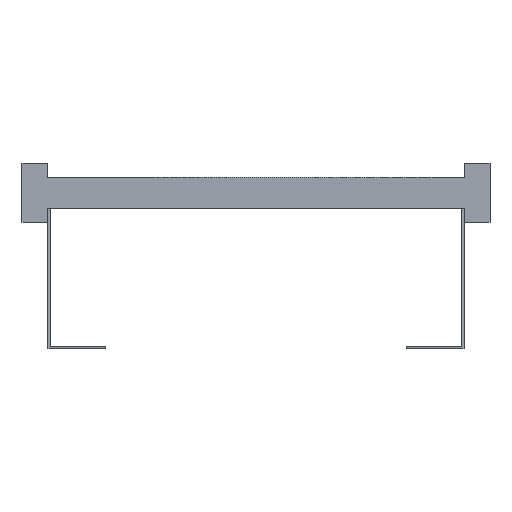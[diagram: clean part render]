
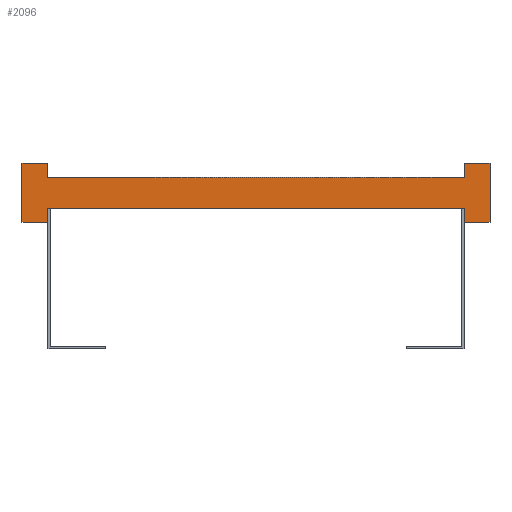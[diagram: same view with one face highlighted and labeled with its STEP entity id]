
A CAD part, front view. The second image highlights one B-rep face of the part: STEP entity #2096.
In plain terms, the highlighted planar face has unit normal (0, -1, 0).
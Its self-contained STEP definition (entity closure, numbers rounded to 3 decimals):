
#705=DIRECTION('',(0.,0.,1.));
#706=VECTOR('',#705,13.5);
#707=CARTESIAN_POINT('',(200.,0.,-28.5));
#708=LINE('',#707,#706);
#709=DIRECTION('',(0.,0.,-1.));
#710=VECTOR('',#709,13.5);
#711=CARTESIAN_POINT('',(-200.,0.,-15.));
#712=LINE('',#711,#710);
#713=DIRECTION('',(-1.,0.,0.));
#714=VECTOR('',#713,25.);
#715=CARTESIAN_POINT('',(-200.,0.,-28.5));
#716=LINE('',#715,#714);
#717=DIRECTION('',(0.,0.,1.));
#718=VECTOR('',#717,57.);
#719=CARTESIAN_POINT('',(-225.,0.,-28.5));
#720=LINE('',#719,#718);
#721=DIRECTION('',(1.,0.,0.));
#722=VECTOR('',#721,25.);
#723=CARTESIAN_POINT('',(-225.,0.,28.5));
#724=LINE('',#723,#722);
#725=DIRECTION('',(0.,0.,-1.));
#726=VECTOR('',#725,13.5);
#727=CARTESIAN_POINT('',(-200.,0.,28.5));
#728=LINE('',#727,#726);
#729=DIRECTION('',(0.,0.,1.));
#730=VECTOR('',#729,13.5);
#731=CARTESIAN_POINT('',(200.,0.,15.));
#732=LINE('',#731,#730);
#733=DIRECTION('',(1.,0.,0.));
#734=VECTOR('',#733,25.);
#735=CARTESIAN_POINT('',(200.,0.,28.5));
#736=LINE('',#735,#734);
#737=DIRECTION('',(0.,0.,-1.));
#738=VECTOR('',#737,57.);
#739=CARTESIAN_POINT('',(225.,0.,28.5));
#740=LINE('',#739,#738);
#741=DIRECTION('',(-1.,0.,0.));
#742=VECTOR('',#741,25.);
#743=CARTESIAN_POINT('',(225.,0.,-28.5));
#744=LINE('',#743,#742);
#745=DIRECTION('',(1.,0.,0.));
#746=VECTOR('',#745,400.);
#747=CARTESIAN_POINT('',(-200.,0.,-15.));
#748=LINE('',#747,#746);
#757=DIRECTION('',(1.,0.,0.));
#758=VECTOR('',#757,400.);
#759=CARTESIAN_POINT('',(-200.,0.,15.));
#760=LINE('',#759,#758);
#977=CARTESIAN_POINT('',(-225.,0.,28.5));
#978=CARTESIAN_POINT('',(-200.,0.,28.5));
#979=VERTEX_POINT('',#977);
#980=VERTEX_POINT('',#978);
#981=CARTESIAN_POINT('',(-200.,0.,-28.5));
#982=CARTESIAN_POINT('',(-225.,0.,-28.5));
#983=VERTEX_POINT('',#981);
#984=VERTEX_POINT('',#982);
#985=CARTESIAN_POINT('',(225.,0.,28.5));
#986=CARTESIAN_POINT('',(225.,0.,-28.5));
#987=VERTEX_POINT('',#985);
#988=VERTEX_POINT('',#986);
#989=CARTESIAN_POINT('',(200.,0.,-28.5));
#990=VERTEX_POINT('',#989);
#991=CARTESIAN_POINT('',(200.,0.,28.5));
#992=VERTEX_POINT('',#991);
#993=CARTESIAN_POINT('',(-200.,0.,-15.));
#995=VERTEX_POINT('',#993);
#997=CARTESIAN_POINT('',(-200.,0.,15.));
#999=VERTEX_POINT('',#997);
#1001=CARTESIAN_POINT('',(200.,0.,-15.));
#1003=VERTEX_POINT('',#1001);
#1005=CARTESIAN_POINT('',(200.,0.,15.));
#1007=VERTEX_POINT('',#1005);
#2071=CARTESIAN_POINT('',(0.,0.,0.));
#2072=DIRECTION('',(0.,1.,0.));
#2073=DIRECTION('',(1.,0.,0.));
#2074=AXIS2_PLACEMENT_3D('',#2071,#2072,#2073);
#2075=PLANE('',#2074);
#2076=ORIENTED_EDGE('',*,*,#1461,.T.);
#2078=ORIENTED_EDGE('',*,*,#2077,.F.);
#2079=ORIENTED_EDGE('',*,*,#1590,.T.);
#2080=ORIENTED_EDGE('',*,*,#2018,.T.);
#2082=ORIENTED_EDGE('',*,*,#2081,.T.);
#2083=ORIENTED_EDGE('',*,*,#2064,.T.);
#2084=ORIENTED_EDGE('',*,*,#1598,.T.);
#2086=ORIENTED_EDGE('',*,*,#2085,.T.);
#2087=ORIENTED_EDGE('',*,*,#1453,.T.);
#2089=ORIENTED_EDGE('',*,*,#2088,.T.);
#2091=ORIENTED_EDGE('',*,*,#2090,.T.);
#2093=ORIENTED_EDGE('',*,*,#2092,.T.);
#2094=EDGE_LOOP('',(#2076,#2078,#2079,#2080,#2082,#2083,#2084,#2086,#2087,#2089,
#2091,#2093));
#2095=FACE_OUTER_BOUND('',#2094,.F.);
#1453=EDGE_CURVE('',#1007,#992,#732,.T.);
#1461=EDGE_CURVE('',#990,#1003,#708,.T.);
#1590=EDGE_CURVE('',#995,#983,#712,.T.);
#1598=EDGE_CURVE('',#980,#999,#728,.T.);
#2018=EDGE_CURVE('',#983,#984,#716,.T.);
#2064=EDGE_CURVE('',#979,#980,#724,.T.);
#2077=EDGE_CURVE('',#995,#1003,#748,.T.);
#2081=EDGE_CURVE('',#984,#979,#720,.T.);
#2085=EDGE_CURVE('',#999,#1007,#760,.T.);
#2088=EDGE_CURVE('',#992,#987,#736,.T.);
#2090=EDGE_CURVE('',#987,#988,#740,.T.);
#2092=EDGE_CURVE('',#988,#990,#744,.T.);
#2096=ADVANCED_FACE('',(#2095),#2075,.F.);
